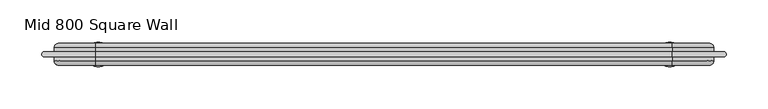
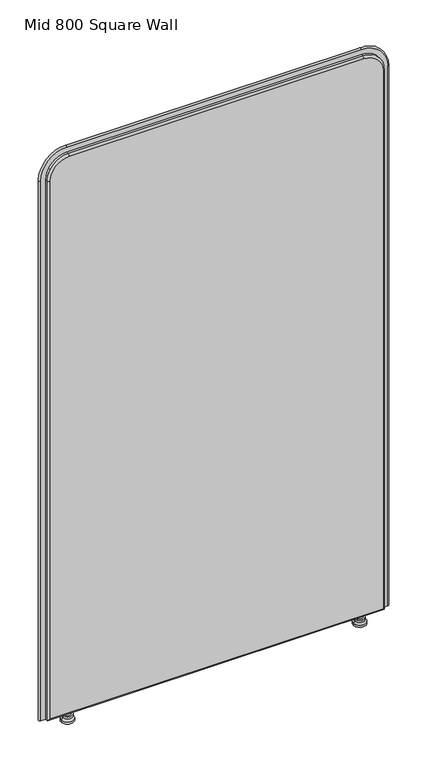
"""IFC4 building model written with IfcOpenShell, lengths in millimetres: furniture geometry, DBLTD_Sixteen3_PrivacyScreens_Artus_Square : Mid 800 Square Wall."""

from ifc_helpers import new_model, si_unit, point, frame, origin, place, context, project, spatial, polyline, circle_curve, ellipse_curve, trimmed, source, transform, mapped, element, save
from ifc_brep_helpers import plane_surface, cylinder_surface, revolved_surface, advanced_brep


def mid_800_square_wall_40fcdca0(model_context):
    return source(origin(), model_context, "Body", "AdvancedBrep", [
        advanced_brep(
        [(342.2938623, 820.0, 22.0), (349.2938623, 820.0, 22.0), (335.2938623, 820.0, 22.0), (349.2938623, 820.0, 15.0), (335.2938623, 820.0, 15.0), (353.744562, 820.0, 15.0), (330.8431626, 820.0, 15.0), (353.744562, 820.0, 10.0), (330.8431626, 820.0, 10.0), (357.2938623, 820.0, 5.0), (327.2938623, 820.0, 5.0), (357.2938623, 820.0, 0.0), (327.2938623, 820.0, 0.0), (342.2938623, 820.0, 0.0)],
        [
            (0, 1),
            (1, 2, circle_curve(frame((342.2938623, 820.0, 22.0), z_axis=(0.0, 0.0, 1.0), x_axis=(1.0, 0.0, 0.0)), 7.0)),
            (2, 0),
            (2, 1, circle_curve(frame((342.2938623, 820.0, 22.0), z_axis=(0.0, 0.0, 1.0), x_axis=(1.0, 0.0, 0.0)), 7.0)),
            (1, 3),
            (3, 4, circle_curve(frame((342.2938623, 820.0, 15.0), z_axis=(0.0, 0.0, 1.0), x_axis=(1.0, 0.0, 0.0)), 7.0)),
            (4, 2),
            (4, 3, circle_curve(frame((342.2938623, 820.0, 15.0), z_axis=(0.0, 0.0, 1.0), x_axis=(1.0, 0.0, 0.0)), 7.0)),
            (3, 5),
            (5, 6, circle_curve(frame((342.2938623, 820.0, 15.0), z_axis=(0.0, 0.0, 1.0), x_axis=(1.0, 0.0, 0.0)), 11.4506997)),
            (6, 4),
            (6, 5, circle_curve(frame((342.2938623, 820.0, 15.0), z_axis=(0.0, 0.0, 1.0), x_axis=(1.0, 0.0, 0.0)), 11.4506997)),
            (5, 7),
            (7, 8, circle_curve(frame((342.2938623, 820.0, 10.0), z_axis=(0.0, 0.0, 1.0), x_axis=(1.0, 0.0, 0.0)), 11.4506997)),
            (8, 6),
            (8, 7, circle_curve(frame((342.2938623, 820.0, 10.0), z_axis=(0.0, 0.0, 1.0), x_axis=(1.0, 0.0, 0.0)), 11.4506997)),
            (7, 9),
            (9, 10, circle_curve(frame((342.2938623, 820.0, 5.0), z_axis=(0.0, 0.0, 1.0), x_axis=(1.0, 0.0, 0.0)), 15.0)),
            (10, 8),
            (10, 9, circle_curve(frame((342.2938623, 820.0, 5.0), z_axis=(0.0, 0.0, 1.0), x_axis=(1.0, 0.0, 0.0)), 15.0)),
            (9, 11),
            (11, 12, circle_curve(frame((342.2938623, 820.0, 0.0), z_axis=(0.0, 0.0, 1.0), x_axis=(1.0, 0.0, 0.0)), 15.0)),
            (12, 10),
            (12, 11, circle_curve(frame((342.2938623, 820.0, 0.0), z_axis=(0.0, 0.0, 1.0), x_axis=(1.0, 0.0, 0.0)), 15.0)),
            (11, 13),
            (13, 12),
        ],
        [
            plane_surface(frame((342.2938623, 820.0, 22.0), z_axis=(0.0, 0.0, 1.0), x_axis=(1.0, 0.0, 0.0))),
            cylinder_surface(frame((342.2938623, 820.0, 5.0), z_axis=(0.0, 0.0, 1.0), x_axis=(1.0, 0.0, 0.0)), 7.0),
            plane_surface(frame((342.2938623, 820.0, 15.0), z_axis=(0.0, 0.0, 1.0), x_axis=(1.0, 0.0, 0.0))),
            cylinder_surface(frame((342.2938623, 820.0, 5.0), z_axis=(0.0, 0.0, 1.0), x_axis=(1.0, 0.0, 0.0)), 11.4506997),
            revolved_surface(polyline([(357.2938623, 820.0, 5.0), (353.744562, 820.0, 10.0)]), (342.2938623, 820.0, 5.0), (0.0, 0.0, 1.0)),
            cylinder_surface(frame((342.2938623, 820.0, 5.0), z_axis=(0.0, 0.0, 1.0), x_axis=(1.0, 0.0, 0.0)), 15.0),
            plane_surface(frame((342.2938623, 820.0, 0.0), z_axis=(0.0, 0.0, -1.0), x_axis=(1.0, 0.0, 0.0))),
        ],
        [
            (0, [[1, 2, 3]]),
            (0, [[-3, 4, -1]]),
            (1, [[-2, 5, 6, 7]]),
            (1, [[-4, -7, 8, -5]]),
            (2, [[-6, 9, 10, 11]]),
            (2, [[-8, -11, 12, -9]]),
            (3, [[-10, 13, 14, 15]]),
            (3, [[-12, -15, 16, -13]]),
            (4, [[-14, 17, 18, 19]]),
            (4, [[-16, -19, 20, -17]]),
            (5, [[-18, 21, 22, 23]]),
            (5, [[-20, -23, 24, -21]]),
            (6, [[-22, 25, 26]]),
            (6, [[-24, -26, -25]]),
        ],
    ),
        advanced_brep(
        [(-335.2938623, 820.0, 22.0), (-349.2938623, 820.0, 22.0), (-342.2938623, 820.0, 22.0), (-335.2938623, 820.0, 15.0), (-349.2938623, 820.0, 15.0), (-330.8431626, 820.0, 15.0), (-353.744562, 820.0, 15.0), (-330.8431626, 820.0, 10.0), (-353.744562, 820.0, 10.0), (-327.2938623, 820.0, 5.0), (-357.2938623, 820.0, 5.0), (-327.2938623, 820.0, 0.0), (-357.2938623, 820.0, 0.0), (-342.2938623, 820.0, 0.0)],
        [
            (0, 1, circle_curve(frame((-342.2938623, 820.0, 22.0), z_axis=(0.0, 0.0, 1.0), x_axis=(-1.0, 0.0, 0.0)), 7.0)),
            (1, 2),
            (2, 0),
            (1, 0, circle_curve(frame((-342.2938623, 820.0, 22.0), z_axis=(0.0, 0.0, 1.0), x_axis=(-1.0, 0.0, 0.0)), 7.0)),
            (3, 4, circle_curve(frame((-342.2938623, 820.0, 15.0), z_axis=(0.0, 0.0, 1.0), x_axis=(-1.0, 0.0, 0.0)), 7.0)),
            (4, 1),
            (0, 3),
            (4, 3, circle_curve(frame((-342.2938623, 820.0, 15.0), z_axis=(0.0, 0.0, 1.0), x_axis=(-1.0, 0.0, 0.0)), 7.0)),
            (5, 6, circle_curve(frame((-342.2938623, 820.0, 15.0), z_axis=(0.0, 0.0, 1.0), x_axis=(-1.0, 0.0, 0.0)), 11.4506997)),
            (6, 4),
            (3, 5),
            (6, 5, circle_curve(frame((-342.2938623, 820.0, 15.0), z_axis=(0.0, 0.0, 1.0), x_axis=(-1.0, 0.0, 0.0)), 11.4506997)),
            (7, 8, circle_curve(frame((-342.2938623, 820.0, 10.0), z_axis=(0.0, 0.0, 1.0), x_axis=(-1.0, 0.0, 0.0)), 11.4506997)),
            (8, 6),
            (5, 7),
            (8, 7, circle_curve(frame((-342.2938623, 820.0, 10.0), z_axis=(0.0, 0.0, 1.0), x_axis=(-1.0, 0.0, 0.0)), 11.4506997)),
            (9, 10, circle_curve(frame((-342.2938623, 820.0, 5.0), z_axis=(0.0, 0.0, 1.0), x_axis=(-1.0, 0.0, 0.0)), 15.0)),
            (10, 8),
            (7, 9),
            (10, 9, circle_curve(frame((-342.2938623, 820.0, 5.0), z_axis=(0.0, 0.0, 1.0), x_axis=(-1.0, 0.0, 0.0)), 15.0)),
            (11, 12, circle_curve(frame((-342.2938623, 820.0, 0.0), z_axis=(0.0, 0.0, 1.0), x_axis=(-1.0, 0.0, 0.0)), 15.0)),
            (12, 10),
            (9, 11),
            (12, 11, circle_curve(frame((-342.2938623, 820.0, 0.0), z_axis=(0.0, 0.0, 1.0), x_axis=(-1.0, 0.0, 0.0)), 15.0)),
            (13, 12),
            (11, 13),
        ],
        [
            plane_surface(frame((-342.2938623, 820.0, 22.0), z_axis=(0.0, 0.0, 1.0), x_axis=(-1.0, 0.0, 0.0))),
            cylinder_surface(frame((-342.2938623, 820.0, 5.0), z_axis=(0.0, 0.0, -1.0), x_axis=(-1.0, 0.0, 0.0)), 7.0),
            plane_surface(frame((-342.2938623, 820.0, 15.0), z_axis=(0.0, 0.0, 1.0), x_axis=(-1.0, 0.0, 0.0))),
            cylinder_surface(frame((-342.2938623, 820.0, 5.0), z_axis=(0.0, 0.0, -1.0), x_axis=(-1.0, 0.0, 0.0)), 11.4506997),
            revolved_surface(polyline([(-353.744562, 820.0, 10.0), (-357.2938623, 820.0, 5.0)]), (-342.2938623, 820.0, 5.0), (0.0, 0.0, -1.0)),
            cylinder_surface(frame((-342.2938623, 820.0, 5.0), z_axis=(0.0, 0.0, -1.0), x_axis=(-1.0, 0.0, 0.0)), 15.0),
            plane_surface(frame((-342.2938623, 820.0, 0.0), z_axis=(0.0, 0.0, -1.0), x_axis=(-1.0, 0.0, 0.0))),
        ],
        [
            (0, [[1, 2, 3]]),
            (0, [[4, -3, -2]]),
            (1, [[5, 6, -1, 7]]),
            (1, [[8, -7, -4, -6]]),
            (2, [[9, 10, -5, 11]]),
            (2, [[12, -11, -8, -10]]),
            (3, [[13, 14, -9, 15]]),
            (3, [[16, -15, -12, -14]]),
            (4, [[17, 18, -13, 19]]),
            (4, [[20, -19, -16, -18]]),
            (5, [[21, 22, -17, 23]]),
            (5, [[24, -23, -20, -22]]),
            (6, [[25, -21, 26]]),
            (6, [[-26, -24, -25]]),
        ],
    ),
        advanced_brep(
        [(-390.0, 807.0, 27.0), (390.0, 807.0, 27.0), (390.0, 807.0, 1360.0), (345.0, 807.0, 1405.0), (-345.0, 807.0, 1405.0), (-390.0, 807.0, 1360.0), (390.0, 833.0, 27.0), (-390.0, 833.0, 27.0), (-390.0, 833.0, 1360.0), (-345.0, 833.0, 1405.0), (345.0, 833.0, 1405.0), (390.0, 833.0, 1360.0), (345.0, 811.9999956, 1410.0), (345.0, 828.0, 1410.0), (-345.0, 828.0, 1410.0), (-345.0, 812.0, 1410.0), (-395.0, 828.0, 1360.0), (-395.0, 811.999995, 1360.0), (-395.0, 828.0, 22.0), (-395.0, 812.0, 22.0), (395.0, 828.0, 22.0), (395.0, 812.0, 22.0), (395.0, 828.0, 1360.0), (395.0, 812.0, 1360.0)],
        [
            (0, 1),
            (1, 2),
            (2, 3, circle_curve(frame((345.0, 807.0, 1360.0), z_axis=(0.0, -1.0, 0.0), x_axis=(1.0, 0.0, 0.0)), 45.0)),
            (3, 4),
            (4, 5, circle_curve(frame((-345.0, 807.0, 1360.0), z_axis=(0.0, -1.0, 0.0), x_axis=(0.0, 0.0, 1.0)), 45.0)),
            (5, 0),
            (6, 7),
            (7, 8),
            (8, 9, circle_curve(frame((-345.0, 833.0, 1360.0), z_axis=(0.0, 1.0, 0.0), x_axis=(0.0, 0.0, 1.0)), 45.0)),
            (9, 10),
            (10, 11, circle_curve(frame((345.0, 833.0, 1360.0), z_axis=(0.0, 1.0, 0.0), x_axis=(1.0, 0.0, 0.0)), 45.0)),
            (11, 6),
            (12, 13),
            (13, 14),
            (14, 15),
            (15, 12),
            (14, 16, circle_curve(frame((-345.0, 828.0, 1360.0), z_axis=(0.0, -1.0, 0.0), x_axis=(1.0, 0.0, 0.0)), 50.0)),
            (16, 17),
            (17, 15, circle_curve(frame((-345.0, 812.0, 1360.0), z_axis=(0.0, 1.0, 0.0), x_axis=(1.0, 0.0, 0.0)), 50.0)),
            (16, 18),
            (18, 19),
            (19, 17),
            (18, 20),
            (20, 21),
            (21, 19),
            (20, 22),
            (22, 23),
            (23, 21),
            (12, 23, circle_curve(frame((345.0, 812.0, 1360.0), z_axis=(0.0, 1.0, 0.0), x_axis=(1.0, 0.0, 0.0)), 50.0)),
            (22, 13, circle_curve(frame((345.0, 828.0, 1360.0), z_axis=(0.0, -1.0, 0.0), x_axis=(1.0, 0.0, 0.0)), 50.0)),
            (21, 1, ellipse_curve(frame((390.0, 812.0, 27.0), z_axis=(-0.7071067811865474, 0.0, -0.7071067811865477), x_axis=(0.7071067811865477, 0.0, -0.7071067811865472)), 7.0710678, 5.0)),
            (0, 19, ellipse_curve(frame((-390.0, 812.0, 27.0), z_axis=(0.7071067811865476, 0.0, -0.7071067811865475), x_axis=(0.7071067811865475, 0.0, 0.7071067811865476)), 7.0710678, 5.0)),
            (6, 20, ellipse_curve(frame((390.0, 828.0, 27.0), z_axis=(-0.7071067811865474, 0.0, -0.7071067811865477), x_axis=(0.7071067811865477, 0.0, -0.7071067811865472)), 7.0710678, 5.0)),
            (18, 7, ellipse_curve(frame((-390.0, 828.0, 27.0), z_axis=(0.7071067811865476, 0.0, -0.7071067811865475), x_axis=(0.7071067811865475, 0.0, 0.7071067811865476)), 7.0710678, 5.0)),
            (23, 2, circle_curve(frame((390.0, 812.0, 1360.0), z_axis=(0.0, 0.0, -1.0), x_axis=(1.0, 0.0, 0.0)), 5.0)),
            (11, 22, circle_curve(frame((390.0, 828.0, 1360.0), z_axis=(0.0, 0.0, -1.0), x_axis=(1.0, 0.0, 0.0)), 5.0)),
            (12, 3, circle_curve(frame((345.0, 812.0, 1405.0), z_axis=(1.0, 0.0, 0.0), x_axis=(0.0, 0.0, 1.0)), 5.0)),
            (10, 13, circle_curve(frame((345.0, 828.0, 1405.0), z_axis=(1.0, 0.0, 0.0), x_axis=(0.0, 0.0, 1.0)), 5.0)),
            (15, 4, circle_curve(frame((-345.0, 812.0, 1405.0), z_axis=(1.0, 0.0, 0.0), x_axis=(0.0, 0.0, 1.0)), 5.0)),
            (9, 14, circle_curve(frame((-345.0, 828.0, 1405.0), z_axis=(1.0, 0.0, 0.0), x_axis=(0.0, 0.0, 1.0)), 5.0)),
            (17, 5, circle_curve(frame((-390.0, 812.0, 1360.0), z_axis=(0.0, 0.0, 1.0), x_axis=(-1.0, 0.0, 0.0)), 5.0)),
            (8, 16, circle_curve(frame((-390.0, 828.0, 1360.0), z_axis=(0.0, 0.0, 1.0), x_axis=(-1.0, 0.0, 0.0)), 5.0)),
        ],
        [
            plane_surface(frame((-345.0, 807.0, 1410.0), z_axis=(0.0, -1.0, 0.0), x_axis=(-1.0, 0.0, 0.0))),
            plane_surface(frame((-345.0, 833.0, 1410.0), z_axis=(0.0, 1.0, 0.0), x_axis=(1.0, 0.0, 0.0))),
            plane_surface(frame((345.0, 807.0, 1410.0), z_axis=(0.0, 0.0, 1.0), x_axis=(0.0, 1.0, 0.0))),
            cylinder_surface(frame((-345.0, 833.0, 1360.0), z_axis=(0.0, -1.0, 0.0), x_axis=(1.0, 0.0, 0.0)), 50.0),
            plane_surface(frame((-395.0, 807.0, 1360.0), z_axis=(-1.0, 0.0, 0.0), x_axis=(0.0, 1.0, 0.0))),
            plane_surface(frame((-395.0, 807.0, 22.0), z_axis=(0.0, 0.0, -1.0), x_axis=(0.0, 1.0, 0.0))),
            plane_surface(frame((395.0, 807.0, 22.0), z_axis=(1.0, 0.0, 0.0), x_axis=(0.0, 1.0, 0.0))),
            cylinder_surface(frame((345.0, 833.0, 1360.0), z_axis=(0.0, -1.0, 0.0), x_axis=(1.0, 0.0, 0.0)), 50.0),
            cylinder_surface(frame((-395.0, 812.0, 27.0), z_axis=(1.0, 0.0, 0.0), x_axis=(0.0, 0.0, -1.0)), 5.0),
            cylinder_surface(frame((-395.0, 828.0, 27.0), z_axis=(1.0, 0.0, 0.0), x_axis=(0.0, 0.0, -1.0)), 5.0),
            cylinder_surface(frame((390.0, 812.0, 22.0), z_axis=(0.0, 0.0, 1.0), x_axis=(1.0, 0.0, 0.0)), 5.0),
            cylinder_surface(frame((390.0, 828.0, 22.0), z_axis=(0.0, 0.0, 1.0), x_axis=(1.0, 0.0, 0.0)), 5.0),
            revolved_surface(trimmed(ellipse_curve(frame((390.0, 812.0, 1360.0), z_axis=(0.0, 0.0, -1.0), x_axis=(1.0, 0.0, 0.0)), 5.0, 5.0), [point((395.0, 812.0, 1360.0))], [point((390.0, 807.0, 1360.0))], True, "CARTESIAN"), (345.0, 807.0, 1360.0), (0.0, -1.0, 0.0)),
            revolved_surface(trimmed(ellipse_curve(frame((390.0, 828.0, 1360.0), z_axis=(0.0, 0.0, -1.0), x_axis=(1.0, 0.0, 0.0)), 5.0, 5.0), [point((390.0, 833.0, 1360.0))], [point((395.0, 828.0, 1360.0))], True, "CARTESIAN"), (345.0, 807.0, 1360.0), (0.0, -1.0, 0.0)),
            cylinder_surface(frame((345.0, 812.0, 1405.0), z_axis=(-1.0, 0.0, 0.0), x_axis=(0.0, 0.0, 1.0)), 5.0),
            cylinder_surface(frame((345.0, 828.0, 1405.0), z_axis=(-1.0, 0.0, 0.0), x_axis=(0.0, 0.0, 1.0)), 5.0),
            revolved_surface(trimmed(ellipse_curve(frame((-345.0, 812.0, 1405.0), z_axis=(1.0, 0.0, 0.0), x_axis=(0.0, 0.0, 1.0)), 5.0, 5.0), [point((-345.0, 812.0, 1410.0))], [point((-345.0, 807.0, 1405.0))], True, "CARTESIAN"), (-345.0, 807.0, 1360.0), (0.0, -1.0, 0.0)),
            revolved_surface(trimmed(ellipse_curve(frame((-345.0, 828.0, 1405.0), z_axis=(1.0, 0.0, 0.0), x_axis=(0.0, 0.0, 1.0)), 5.0, 5.0), [point((-345.0, 833.0, 1405.0))], [point((-345.0, 828.0, 1410.0))], True, "CARTESIAN"), (-345.0, 807.0, 1360.0), (0.0, -1.0, 0.0)),
            cylinder_surface(frame((-390.0, 812.0, 1360.0), z_axis=(0.0, 0.0, -1.0), x_axis=(-1.0, 0.0, 0.0)), 5.0),
            cylinder_surface(frame((-390.0, 828.0, 1360.0), z_axis=(0.0, 0.0, -1.0), x_axis=(-1.0, 0.0, 0.0)), 5.0),
        ],
        [
            (0, [[1, 2, 3, 4, 5, 6]]),
            (1, [[7, 8, 9, 10, 11, 12]]),
            (2, [[13, 14, 15, 16]]),
            (3, [[-15, 17, 18, 19]]),
            (4, [[-18, 20, 21, 22]]),
            (5, [[-21, 23, 24, 25]]),
            (6, [[-24, 26, 27, 28]]),
            (7, [[-13, 29, -27, 30]]),
            (8, [[31, -1, 32, -25]]),
            (9, [[33, -23, 34, -7]]),
            (10, [[-31, -28, 35, -2]]),
            (11, [[-33, -12, 36, -26]]),
            (12, [[-35, -29, 37, -3]]),
            (13, [[-36, -11, 38, -30]]),
            (14, [[-37, -16, 39, -4]]),
            (15, [[-38, -10, 40, -14]]),
            (16, [[-39, -19, 41, -5]]),
            (17, [[-40, -9, 42, -17]]),
            (18, [[-32, -6, -41, -22]]),
            (19, [[-34, -20, -42, -8]]),
        ],
    ),
        advanced_brep(
        [(406.9577057, 823.0, 22.0), (406.9577057, 817.0, 22.0), (395.0, 817.0, 22.0), (395.0, 823.0, 22.0), (406.9577057, 823.0, 1360.0), (406.9577057, 817.0, 1360.0), (345.0, 817.0, 1421.9577057), (-345.0, 817.0, 1421.9577057), (-406.9577057, 817.0, 1360.0), (-406.9577057, 817.0, 22.0), (-395.0, 817.0, 22.0), (-395.0, 817.0, 1360.0), (-345.0, 817.0, 1410.0), (345.0, 817.0, 1410.0), (395.0, 817.0, 1360.0), (395.0, 823.0, 1360.0), (345.0, 823.0, 1410.0), (-345.0, 823.0, 1410.0), (-395.0, 823.0, 1360.0), (-395.0, 823.0, 22.0), (-406.9577057, 823.0, 22.0), (-406.9577057, 823.0, 1360.0), (-345.0, 823.0, 1421.9577057), (345.0, 823.0, 1421.9577057)],
        [
            (0, 1, circle_curve(frame((406.9577057, 820.0, 22.0), z_axis=(0.0, 0.0, -1.0), x_axis=(1.0, 0.0, 0.0)), 3.0)),
            (1, 2),
            (2, 3),
            (3, 0),
            (0, 4),
            (4, 5, circle_curve(frame((406.9577057, 820.0, 1360.0), z_axis=(0.0, 0.0, -1.0), x_axis=(1.0, 0.0, 0.0)), 3.0)),
            (5, 1),
            (5, 6, circle_curve(frame((345.0, 817.0, 1360.0), z_axis=(0.0, -1.0, 0.0), x_axis=(1.0, 0.0, 0.0)), 61.9577057)),
            (6, 7),
            (7, 8, circle_curve(frame((-345.0, 817.0, 1360.0), z_axis=(0.0, -1.0, 0.0), x_axis=(0.0, 0.0, 1.0)), 61.9577057)),
            (8, 9),
            (9, 10),
            (10, 11),
            (11, 12, circle_curve(frame((-345.0, 817.0, 1360.0), z_axis=(0.0, 1.0, 0.0), x_axis=(0.0, 0.0, 1.0)), 50.0)),
            (12, 13),
            (13, 14, circle_curve(frame((345.0, 817.0, 1360.0), z_axis=(0.0, 1.0, 0.0), x_axis=(1.0, 0.0, 0.0)), 50.0)),
            (14, 2),
            (14, 15),
            (15, 3),
            (15, 16, circle_curve(frame((345.0, 823.0, 1360.0), z_axis=(0.0, -1.0, 0.0), x_axis=(1.0, 0.0, 0.0)), 50.0)),
            (16, 17),
            (17, 18, circle_curve(frame((-345.0, 823.0, 1360.0), z_axis=(0.0, -1.0, 0.0), x_axis=(0.0, 0.0, 1.0)), 50.0)),
            (18, 19),
            (19, 20),
            (20, 21),
            (21, 22, circle_curve(frame((-345.0, 823.0, 1360.0), z_axis=(0.0, 1.0, 0.0), x_axis=(0.0, 0.0, 1.0)), 61.9577057)),
            (22, 23),
            (23, 4, circle_curve(frame((345.0, 823.0, 1360.0), z_axis=(0.0, 1.0, 0.0), x_axis=(1.0, 0.0, 0.0)), 61.9577057)),
            (23, 6, circle_curve(frame((345.0, 820.0, 1421.9577057), z_axis=(1.0, 0.0, 0.0), x_axis=(0.0, 0.0, 1.0)), 3.0)),
            (13, 16),
            (22, 7, circle_curve(frame((-345.0, 820.0, 1421.9577057), z_axis=(1.0, 0.0, 0.0), x_axis=(0.0, 0.0, 1.0)), 3.0)),
            (12, 17),
            (21, 8, circle_curve(frame((-406.9577057, 820.0, 1360.0), z_axis=(0.0, 0.0, 1.0), x_axis=(-1.0, 0.0, 0.0)), 3.0)),
            (11, 18),
            (19, 10),
            (9, 20, circle_curve(frame((-406.9577057, 820.0, 22.0), z_axis=(0.0, 0.0, -1.0), x_axis=(-1.0, 0.0, 0.0)), 3.0)),
        ],
        [
            plane_surface(frame((395.0, 807.0, 22.0), z_axis=(0.0, 0.0, -1.0), x_axis=(1.0, 0.0, 0.0))),
            cylinder_surface(frame((406.9577057, 820.0, 22.0), z_axis=(0.0, 0.0, -1.0), x_axis=(1.0, 0.0, 0.0)), 3.0),
            plane_surface(frame((406.9577057, 817.0, 22.0), z_axis=(0.0, -1.0, 0.0), x_axis=(0.0, 0.0, 1.0))),
            plane_surface(frame((395.0, 817.0, 22.0), z_axis=(-1.0, 0.0, 0.0), x_axis=(0.0, 0.0, 1.0))),
            plane_surface(frame((395.0, 823.0, 22.0), z_axis=(0.0, 1.0, 0.0), x_axis=(0.0, 0.0, 1.0))),
            revolved_surface(trimmed(ellipse_curve(frame((406.9577057, 820.0, 1360.0), z_axis=(0.0, 0.0, -1.0), x_axis=(1.0, 0.0, 0.0)), 3.0, 3.0), [point((406.9577057, 823.0, 1360.0))], [point((406.9577057, 817.0, 1360.0))], True, "CARTESIAN"), (345.0, 807.0, 1360.0), (0.0, -1.0, 0.0)),
            revolved_surface(polyline([(395.0, 817.0, 1360.0), (395.0, 823.0, 1360.0)]), (345.0, 807.0, 1360.0), (0.0, -1.0, 0.0)),
            cylinder_surface(frame((345.0, 820.0, 1421.9577057), z_axis=(1.0, 0.0, 0.0), x_axis=(0.0, 0.0, 1.0)), 3.0),
            plane_surface(frame((345.0, 817.0, 1410.0), z_axis=(0.0, 0.0, -1.0), x_axis=(-1.0, 0.0, 0.0))),
            revolved_surface(trimmed(ellipse_curve(frame((-345.0, 820.0, 1421.9577057), z_axis=(1.0, 0.0, 0.0), x_axis=(0.0, 0.0, 1.0)), 3.0, 3.0), [point((-345.0, 823.0, 1421.9577057))], [point((-345.0, 817.0, 1421.9577057))], True, "CARTESIAN"), (-345.0, 807.0, 1360.0), (0.0, -1.0, 0.0)),
            revolved_surface(polyline([(-345.0, 817.0, 1410.0), (-345.0, 823.0, 1410.0)]), (-345.0, 807.0, 1360.0), (0.0, -1.0, 0.0)),
            plane_surface(frame((-395.0, 807.0, 22.0), z_axis=(0.0, 0.0, -1.0), x_axis=(-1.0, 0.0, 0.0))),
            cylinder_surface(frame((-406.9577057, 820.0, 1360.0), z_axis=(0.0, 0.0, 1.0), x_axis=(-1.0, 0.0, 0.0)), 3.0),
            plane_surface(frame((-395.0, 817.0, 1360.0), z_axis=(1.0, 0.0, 0.0), x_axis=(0.0, 0.0, -1.0))),
        ],
        [
            (0, [[1, 2, 3, 4]]),
            (1, [[-1, 5, 6, 7]]),
            (2, [[-2, -7, 8, 9, 10, 11, 12, 13, 14, 15, 16, 17]]),
            (3, [[-3, -17, 18, 19]]),
            (4, [[-4, -19, 20, 21, 22, 23, 24, 25, 26, 27, 28, -5]]),
            (5, [[-8, -6, -28, 29]]),
            (6, [[-20, -18, -16, 30]]),
            (7, [[-29, -27, 31, -9]]),
            (8, [[-30, -15, 32, -21]]),
            (9, [[-10, -31, -26, 33]]),
            (10, [[-22, -32, -14, 34]]),
            (11, [[-24, 35, -12, 36]]),
            (12, [[-33, -25, -36, -11]]),
            (13, [[-34, -13, -35, -23]]),
        ],
    ),
    ])


if __name__ == "__main__":
    model = new_model("IFC4")
    model_context = context("Model", 3, world=origin())
    ifc_project = project(units=[si_unit("LENGTHUNIT", "METRE", prefix="MILLI")], contexts=[model_context])
    site = spatial("IfcSite", under=ifc_project)
    building = spatial("IfcBuilding", under=site)
    placement = place(None, origin())
    mid_800_square_wall_shape = mid_800_square_wall_40fcdca0(model_context)
    element("IfcFurniture", 1, ObjectType="DBLTD_Sixteen3_PrivacyScreens_Artus_Square : Mid 800 Square Wall", at=placement, inside=building, context=model_context, shape_type="MappedRepresentation", body=[
        mapped(mid_800_square_wall_shape, transform((0.0, 0.0, 0.0), x_axis=(1.0, 0.0, 0.0), y_axis=(0.0, 1.0, 0.0), z_axis=(0.0, 0.0, 1.0))),
    ])
    save(model, "model.ifc")
